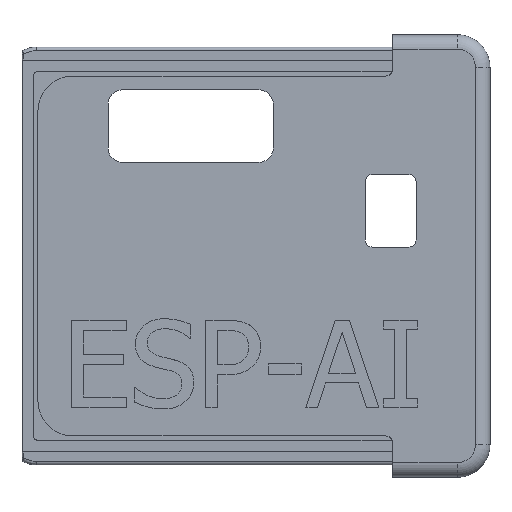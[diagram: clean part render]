
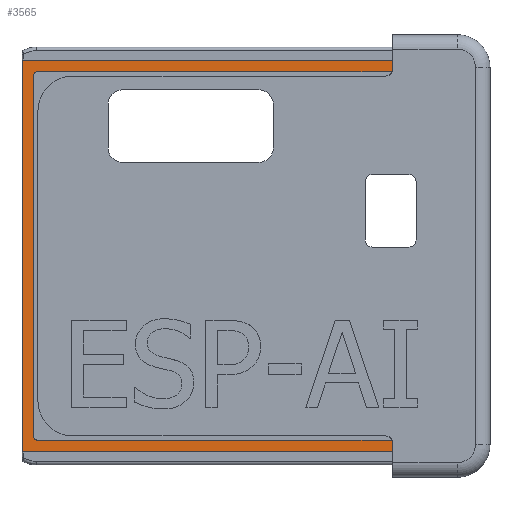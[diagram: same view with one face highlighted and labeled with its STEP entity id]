
A CAD part, top view. The second image highlights one B-rep face of the part: STEP entity #3565.
In plain terms, the highlighted planar face has unit normal (0, 0, 1).
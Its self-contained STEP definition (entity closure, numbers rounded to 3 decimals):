
#201=FACE_OUTER_BOUND('',#398,.T.);
#398=EDGE_LOOP('',(#2579,#2580,#2581,#2582,#2583,#2584,#2585,#2586,#2587,
#2588,#2589,#2590));
#610=LINE('',#5223,#1001);
#614=LINE('',#5230,#1005);
#649=LINE('',#5366,#1040);
#666=LINE('',#5403,#1057);
#669=LINE('',#5409,#1060);
#670=LINE('',#5413,#1061);
#671=LINE('',#5414,#1062);
#672=LINE('',#5417,#1063);
#1001=VECTOR('',#4115,10.);
#1005=VECTOR('',#4121,10.);
#1040=VECTOR('',#4244,10.);
#1057=VECTOR('',#4287,10.);
#1060=VECTOR('',#4292,10.);
#1061=VECTOR('',#4297,10.);
#1062=VECTOR('',#4298,10.);
#1063=VECTOR('',#4301,10.);
#1372=CIRCLE('',#3779,0.364);
#1400=CIRCLE('',#3835,0.364);
#1401=CIRCLE('',#3836,1.);
#1402=CIRCLE('',#3837,1.);
#1507=VERTEX_POINT('',#5220);
#1508=VERTEX_POINT('',#5222);
#1510=VERTEX_POINT('',#5228);
#1511=VERTEX_POINT('',#5232);
#1514=VERTEX_POINT('',#5237);
#1556=VERTEX_POINT('',#5363);
#1557=VERTEX_POINT('',#5365);
#1563=VERTEX_POINT('',#5400);
#1564=VERTEX_POINT('',#5402);
#1566=VERTEX_POINT('',#5408);
#1567=VERTEX_POINT('',#5411);
#1568=VERTEX_POINT('',#5415);
#1870=EDGE_CURVE('',#1507,#1508,#610,.T.);
#1874=EDGE_CURVE('',#1510,#1507,#614,.T.);
#1878=EDGE_CURVE('',#1511,#1514,#1372,.T.);
#1936=EDGE_CURVE('',#1557,#1556,#649,.T.);
#1956=EDGE_CURVE('',#1564,#1563,#666,.T.);
#1959=EDGE_CURVE('',#1514,#1566,#669,.T.);
#1960=EDGE_CURVE('',#1566,#1564,#1400,.T.);
#1961=EDGE_CURVE('',#1563,#1567,#1401,.T.);
#1962=EDGE_CURVE('',#1567,#1508,#670,.T.);
#1963=EDGE_CURVE('',#1510,#1557,#671,.T.);
#1964=EDGE_CURVE('',#1556,#1568,#1402,.T.);
#1965=EDGE_CURVE('',#1511,#1568,#672,.T.);
#2579=ORIENTED_EDGE('',*,*,#1959,.T.);
#2580=ORIENTED_EDGE('',*,*,#1960,.T.);
#2581=ORIENTED_EDGE('',*,*,#1956,.T.);
#2582=ORIENTED_EDGE('',*,*,#1961,.T.);
#2583=ORIENTED_EDGE('',*,*,#1962,.T.);
#2584=ORIENTED_EDGE('',*,*,#1870,.F.);
#2585=ORIENTED_EDGE('',*,*,#1874,.F.);
#2586=ORIENTED_EDGE('',*,*,#1963,.T.);
#2587=ORIENTED_EDGE('',*,*,#1936,.T.);
#2588=ORIENTED_EDGE('',*,*,#1964,.T.);
#2589=ORIENTED_EDGE('',*,*,#1965,.F.);
#2590=ORIENTED_EDGE('',*,*,#1878,.T.);
#3421=PLANE('',#3834);
#3565=ADVANCED_FACE('',(#201),#3421,.T.);
#3779=AXIS2_PLACEMENT_3D('',#5239,#4128,#4129);
#3834=AXIS2_PLACEMENT_3D('',#5407,#4290,#4291);
#3835=AXIS2_PLACEMENT_3D('',#5410,#4293,#4294);
#3836=AXIS2_PLACEMENT_3D('',#5412,#4295,#4296);
#3837=AXIS2_PLACEMENT_3D('',#5416,#4299,#4300);
#4115=DIRECTION('',(1.,0.,0.));
#4121=DIRECTION('',(0.,1.,0.));
#4128=DIRECTION('center_axis',(0.,0.,-1.));
#4129=DIRECTION('ref_axis',(0.,-1.,0.));
#4244=DIRECTION('',(0.,1.,0.));
#4287=DIRECTION('',(1.,0.,0.));
#4290=DIRECTION('center_axis',(0.,0.,1.));
#4291=DIRECTION('ref_axis',(0.,1.,0.));
#4292=DIRECTION('',(0.,1.,0.));
#4293=DIRECTION('center_axis',(0.,0.,-1.));
#4294=DIRECTION('ref_axis',(-1.,0.,0.));
#4295=DIRECTION('center_axis',(0.,0.,1.));
#4296=DIRECTION('ref_axis',(-1.,0.,0.));
#4297=DIRECTION('',(0.,1.,0.));
#4298=DIRECTION('',(1.,0.,0.));
#4299=DIRECTION('center_axis',(0.,0.,1.));
#4300=DIRECTION('ref_axis',(-0.9,-0.436,0.));
#4301=DIRECTION('',(1.,0.,0.));
#5220=CARTESIAN_POINT('',(-7.713,50.,13.15));
#5222=CARTESIAN_POINT('',(43.387,50.,13.15));
#5223=CARTESIAN_POINT('',(-5.713,50.,13.15));
#5228=CARTESIAN_POINT('',(-7.713,-4.,13.15));
#5230=CARTESIAN_POINT('',(-7.713,-2.,13.15));
#5232=CARTESIAN_POINT('',(-5.713,-2.364,13.15));
#5237=CARTESIAN_POINT('',(-6.077,-2.,13.15));
#5239=CARTESIAN_POINT('Origin',(-5.713,-2.,13.15));
#5363=CARTESIAN_POINT('',(43.387,-2.8,13.15));
#5365=CARTESIAN_POINT('',(43.387,-4.,13.15));
#5366=CARTESIAN_POINT('',(43.387,-4.5,13.15));
#5400=CARTESIAN_POINT('',(43.287,48.364,13.15));
#5402=CARTESIAN_POINT('',(-5.713,48.364,13.15));
#5403=CARTESIAN_POINT('',(-5.713,48.364,13.15));
#5407=CARTESIAN_POINT('Origin',(43.287,-4.,13.15));
#5408=CARTESIAN_POINT('',(-6.077,48.,13.15));
#5409=CARTESIAN_POINT('',(-6.077,-2.,13.15));
#5410=CARTESIAN_POINT('Origin',(-5.713,48.,13.15));
#5411=CARTESIAN_POINT('',(43.387,48.8,13.15));
#5412=CARTESIAN_POINT('Origin',(42.387,48.8,13.15));
#5413=CARTESIAN_POINT('',(43.387,22.4,13.15));
#5414=CARTESIAN_POINT('',(43.287,-4.,13.15));
#5415=CARTESIAN_POINT('',(43.287,-2.364,13.15));
#5416=CARTESIAN_POINT('Origin',(42.387,-2.8,13.15));
#5417=CARTESIAN_POINT('',(43.287,-2.364,13.15));
